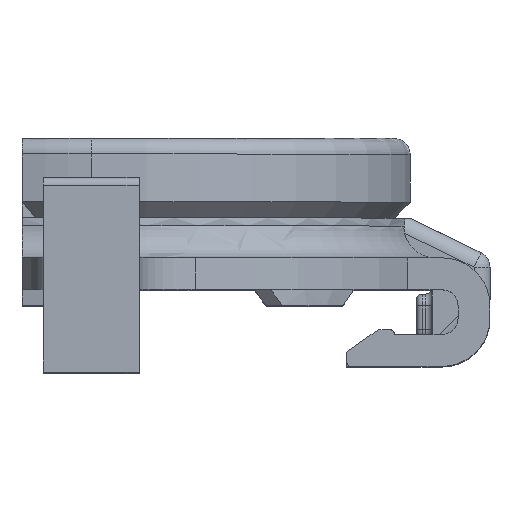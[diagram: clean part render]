
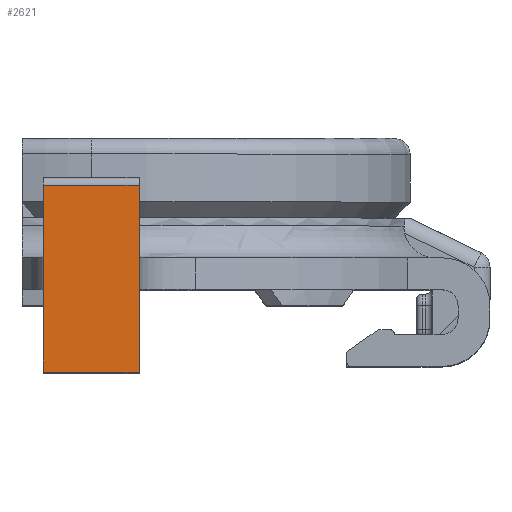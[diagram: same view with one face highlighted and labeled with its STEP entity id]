
A CAD part, top view. The second image highlights one B-rep face of the part: STEP entity #2621.
In plain terms, the highlighted planar face has unit normal (0, 0, 1).
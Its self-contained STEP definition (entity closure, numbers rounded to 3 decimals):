
#198 = FACE_OUTER_BOUND ( 'NONE', #8472, .T. ) ;
#932 = DIRECTION ( 'NONE',  ( 0., 0., 1. ) ) ;
#1006 = DIRECTION ( 'NONE',  ( -1., 0., 0. ) ) ;
#1373 = CARTESIAN_POINT ( 'NONE',  ( -3., 0., 35. ) ) ;
#1771 = LINE ( 'NONE', #5014, #7405 ) ;
#2048 = EDGE_CURVE ( 'NONE', #5909, #2942, #7665, .T. ) ;
#2621 = ADVANCED_FACE ( 'NONE', ( #198 ), #5021, .T. ) ;
#2839 = CARTESIAN_POINT ( 'NONE',  ( 3., 14.76, 35. ) ) ;
#2884 = VERTEX_POINT ( 'NONE', #3056 ) ;
#2942 = VERTEX_POINT ( 'NONE', #5594 ) ;
#3056 = CARTESIAN_POINT ( 'NONE',  ( 3., 0., 35. ) ) ;
#3125 = ORIENTED_EDGE ( 'NONE', *, *, #3938, .T. ) ;
#3173 = VECTOR ( 'NONE', #1006, 1000. ) ;
#3347 = CARTESIAN_POINT ( 'NONE',  ( 22.259, 0., 35. ) ) ;
#3405 = ORIENTED_EDGE ( 'NONE', *, *, #4633, .F. ) ;
#3617 = CARTESIAN_POINT ( 'NONE',  ( -3., 0., 35. ) ) ;
#3938 = EDGE_CURVE ( 'NONE', #8606, #2942, #1771, .T. ) ;
#4489 = VECTOR ( 'NONE', #9946, 1000. ) ;
#4633 = EDGE_CURVE ( 'NONE', #2884, #5909, #9941, .T. ) ;
#5014 = CARTESIAN_POINT ( 'NONE',  ( -3., 11.7, 35. ) ) ;
#5021 = PLANE ( 'NONE',  #7728 ) ;
#5517 = CARTESIAN_POINT ( 'NONE',  ( 3., 11.7, 35. ) ) ;
#5594 = CARTESIAN_POINT ( 'NONE',  ( -3., 11.7, 35. ) ) ;
#5909 = VERTEX_POINT ( 'NONE', #1373 ) ;
#6076 = DIRECTION ( 'NONE',  ( 0., -1., 0. ) ) ;
#6767 = DIRECTION ( 'NONE',  ( -1., 0., 0. ) ) ;
#6774 = DIRECTION ( 'NONE',  ( 1., 0., 0. ) ) ;
#7405 = VECTOR ( 'NONE', #6767, 1000. ) ;
#7665 = LINE ( 'NONE', #3617, #4489 ) ;
#7680 = LINE ( 'NONE', #2839, #8998 ) ;
#7728 = AXIS2_PLACEMENT_3D ( 'NONE', #9922, #932, #6774 ) ;
#8472 = EDGE_LOOP ( 'NONE', ( #10384, #3125, #8838, #3405 ) ) ;
#8606 = VERTEX_POINT ( 'NONE', #5517 ) ;
#8838 = ORIENTED_EDGE ( 'NONE', *, *, #2048, .F. ) ;
#8998 = VECTOR ( 'NONE', #6076, 1000. ) ;
#9344 = EDGE_CURVE ( 'NONE', #8606, #2884, #7680, .T. ) ;
#9922 = CARTESIAN_POINT ( 'NONE',  ( 22.259, 14.76, 35. ) ) ;
#9941 = LINE ( 'NONE', #3347, #3173 ) ;
#9946 = DIRECTION ( 'NONE',  ( 0., 1., 0. ) ) ;
#10384 = ORIENTED_EDGE ( 'NONE', *, *, #9344, .F. ) ;
